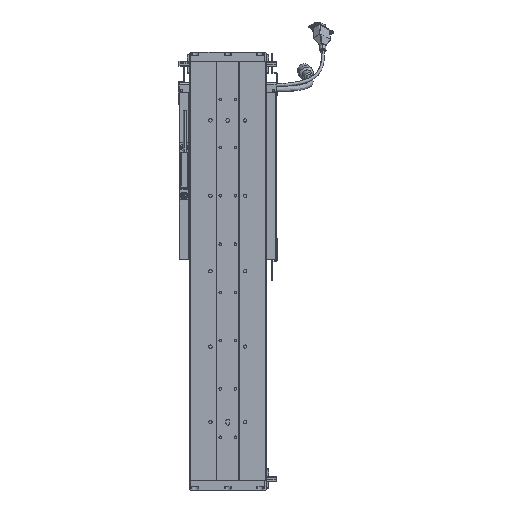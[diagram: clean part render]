
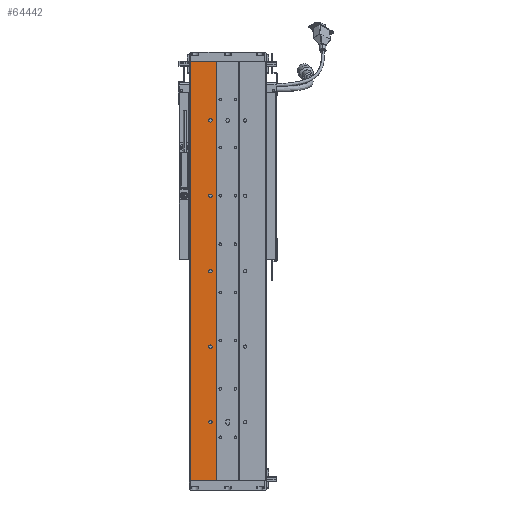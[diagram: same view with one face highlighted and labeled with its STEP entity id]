
A CAD part, front view. The second image highlights one B-rep face of the part: STEP entity #64442.
In plain terms, the highlighted planar face has unit normal (0, -1, 0).
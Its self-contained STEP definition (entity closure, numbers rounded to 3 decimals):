
#1338 = CARTESIAN_POINT ( 'NONE',  ( -23., 0.5, 75.75 ) ) ;
#1459 = LINE ( 'NONE', #40068, #13960 ) ;
#1689 = DIRECTION ( 'NONE',  ( 0., 0., 1. ) ) ;
#2395 = DIRECTION ( 'NONE',  ( 0., 0., 1. ) ) ;
#3947 = FACE_BOUND ( 'NONE', #38756, .T. ) ;
#4339 = DIRECTION ( 'NONE',  ( 0., 0., -1. ) ) ;
#4649 = DIRECTION ( 'NONE',  ( 0., 1., 0. ) ) ;
#5497 = FACE_BOUND ( 'NONE', #60318, .T. ) ;
#6554 = ORIENTED_EDGE ( 'NONE', *, *, #53734, .T. ) ;
#6708 = EDGE_CURVE ( 'NONE', #47941, #8627, #46156, .T. ) ;
#7122 = ORIENTED_EDGE ( 'NONE', *, *, #6708, .T. ) ;
#7694 = ORIENTED_EDGE ( 'NONE', *, *, #26185, .T. ) ;
#7799 = LINE ( 'NONE', #41799, #18795 ) ;
#7926 = DIRECTION ( 'NONE',  ( 0., 0., 1. ) ) ;
#8088 = PLANE ( 'NONE',  #57979 ) ;
#8270 = CARTESIAN_POINT ( 'NONE',  ( -23., 0.5, 180.25 ) ) ;
#8627 = VERTEX_POINT ( 'NONE', #27075 ) ;
#8951 = DIRECTION ( 'NONE',  ( 0., 0., 1. ) ) ;
#9043 = ORIENTED_EDGE ( 'NONE', *, *, #23541, .T. ) ;
#10131 = CIRCLE ( 'NONE', #38775, 2.25 ) ;
#10829 = CARTESIAN_POINT ( 'NONE',  ( -23., 0.5, 375.75 ) ) ;
#10961 = CARTESIAN_POINT ( 'NONE',  ( -23., 0.5, 480.25 ) ) ;
#11306 = DIRECTION ( 'NONE',  ( 0., 0., 1. ) ) ;
#11387 = CARTESIAN_POINT ( 'NONE',  ( -64.681, 0.5, 556. ) ) ;
#11577 = ORIENTED_EDGE ( 'NONE', *, *, #18320, .T. ) ;
#13960 = VECTOR ( 'NONE', #40506, 1000. ) ;
#14463 = CARTESIAN_POINT ( 'NONE',  ( -15., 0.5, 0. ) ) ;
#15485 = DIRECTION ( 'NONE',  ( 0., 0., 1. ) ) ;
#15849 = ORIENTED_EDGE ( 'NONE', *, *, #41222, .T. ) ;
#16336 = VERTEX_POINT ( 'NONE', #57232 ) ;
#16541 = AXIS2_PLACEMENT_3D ( 'NONE', #29397, #19423, #58588 ) ;
#16865 = CIRCLE ( 'NONE', #29645, 2.25 ) ;
#16942 = DIRECTION ( 'NONE',  ( 0., 1., 0. ) ) ;
#17112 = VERTEX_POINT ( 'NONE', #14463 ) ;
#17837 = EDGE_LOOP ( 'NONE', ( #6554, #49871 ) ) ;
#17967 = CARTESIAN_POINT ( 'NONE',  ( -23., 0.5, 278. ) ) ;
#17980 = FACE_BOUND ( 'NONE', #37761, .T. ) ;
#18095 = DIRECTION ( 'NONE',  ( 0., 1., 0. ) ) ;
#18214 = LINE ( 'NONE', #11387, #54699 ) ;
#18320 = EDGE_CURVE ( 'NONE', #18825, #18814, #55578, .T. ) ;
#18376 = DIRECTION ( 'NONE',  ( 0., 1., 0. ) ) ;
#18515 = DIRECTION ( 'NONE',  ( 0., 0., 1. ) ) ;
#18795 = VECTOR ( 'NONE', #2395, 1000. ) ;
#18814 = VERTEX_POINT ( 'NONE', #56430 ) ;
#18825 = VERTEX_POINT ( 'NONE', #36372 ) ;
#18860 = DIRECTION ( 'NONE',  ( 0., 0., 1. ) ) ;
#19423 = DIRECTION ( 'NONE',  ( 0., 1., 0. ) ) ;
#19915 = CIRCLE ( 'NONE', #63567, 2.25 ) ;
#21146 = ORIENTED_EDGE ( 'NONE', *, *, #24785, .T. ) ;
#21371 = CIRCLE ( 'NONE', #25383, 2.25 ) ;
#21519 = CARTESIAN_POINT ( 'NONE',  ( -23., 0.5, 178. ) ) ;
#22070 = VERTEX_POINT ( 'NONE', #54908 ) ;
#22682 = CIRCLE ( 'NONE', #16541, 2.25 ) ;
#23541 = EDGE_CURVE ( 'NONE', #33527, #29337, #16865, .T. ) ;
#24030 = CARTESIAN_POINT ( 'NONE',  ( -15., 0.5, 556. ) ) ;
#24784 = DIRECTION ( 'NONE',  ( 0., 0., 1. ) ) ;
#24785 = EDGE_CURVE ( 'NONE', #60904, #61640, #29897, .T. ) ;
#25383 = AXIS2_PLACEMENT_3D ( 'NONE', #57876, #18095, #18515 ) ;
#25649 = EDGE_LOOP ( 'NONE', ( #7694, #21146, #35462, #46733 ) ) ;
#26185 = EDGE_CURVE ( 'NONE', #50522, #60904, #18214, .T. ) ;
#27075 = CARTESIAN_POINT ( 'NONE',  ( -23., 0.5, 80.25 ) ) ;
#27602 = EDGE_CURVE ( 'NONE', #16336, #44598, #22682, .T. ) ;
#29337 = VERTEX_POINT ( 'NONE', #36375 ) ;
#29397 = CARTESIAN_POINT ( 'NONE',  ( -23., 0.5, 478. ) ) ;
#29645 = AXIS2_PLACEMENT_3D ( 'NONE', #52558, #62605, #7926 ) ;
#29897 = LINE ( 'NONE', #34129, #56382 ) ;
#29947 = AXIS2_PLACEMENT_3D ( 'NONE', #36914, #61352, #1689 ) ;
#30427 = FACE_BOUND ( 'NONE', #52836, .T. ) ;
#30463 = CARTESIAN_POINT ( 'NONE',  ( -23., 0.5, 178. ) ) ;
#31133 = CARTESIAN_POINT ( 'NONE',  ( -50., 0.5, 0. ) ) ;
#31877 = DIRECTION ( 'NONE',  ( 0., 0., 1. ) ) ;
#33527 = VERTEX_POINT ( 'NONE', #10829 ) ;
#33871 = EDGE_CURVE ( 'NONE', #8627, #47941, #10131, .T. ) ;
#34129 = CARTESIAN_POINT ( 'NONE',  ( -50., 0.5, 0. ) ) ;
#34660 = CARTESIAN_POINT ( 'NONE',  ( -23., 0.5, 78. ) ) ;
#34752 = ORIENTED_EDGE ( 'NONE', *, *, #33871, .T. ) ;
#35462 = ORIENTED_EDGE ( 'NONE', *, *, #50695, .F. ) ;
#36372 = CARTESIAN_POINT ( 'NONE',  ( -23., 0.5, 280.25 ) ) ;
#36375 = CARTESIAN_POINT ( 'NONE',  ( -23., 0.5, 380.25 ) ) ;
#36914 = CARTESIAN_POINT ( 'NONE',  ( -23., 0.5, 478. ) ) ;
#37059 = DIRECTION ( 'NONE',  ( 0., 0., 1. ) ) ;
#37505 = DIRECTION ( 'NONE',  ( 0., 1., 0. ) ) ;
#37761 = EDGE_LOOP ( 'NONE', ( #34752, #7122 ) ) ;
#38756 = EDGE_LOOP ( 'NONE', ( #11577, #38818 ) ) ;
#38775 = AXIS2_PLACEMENT_3D ( 'NONE', #34660, #4649, #18860 ) ;
#38818 = ORIENTED_EDGE ( 'NONE', *, *, #39605, .T. ) ;
#39605 = EDGE_CURVE ( 'NONE', #18814, #18825, #40192, .T. ) ;
#39684 = EDGE_CURVE ( 'NONE', #44598, #16336, #54278, .T. ) ;
#40068 = CARTESIAN_POINT ( 'NONE',  ( -64.681, 0.5, 0. ) ) ;
#40192 = CIRCLE ( 'NONE', #45787, 2.25 ) ;
#40506 = DIRECTION ( 'NONE',  ( -1., 0., 0. ) ) ;
#40982 = AXIS2_PLACEMENT_3D ( 'NONE', #21519, #55900, #11306 ) ;
#41222 = EDGE_CURVE ( 'NONE', #29337, #33527, #21371, .T. ) ;
#41799 = CARTESIAN_POINT ( 'NONE',  ( -15., 0.5, 0. ) ) ;
#42848 = FACE_BOUND ( 'NONE', #17837, .T. ) ;
#44598 = VERTEX_POINT ( 'NONE', #10961 ) ;
#44893 = ORIENTED_EDGE ( 'NONE', *, *, #39684, .T. ) ;
#44965 = VERTEX_POINT ( 'NONE', #8270 ) ;
#45269 = EDGE_CURVE ( 'NONE', #22070, #44965, #62260, .T. ) ;
#45787 = AXIS2_PLACEMENT_3D ( 'NONE', #54586, #64217, #24784 ) ;
#46156 = CIRCLE ( 'NONE', #53509, 2.25 ) ;
#46733 = ORIENTED_EDGE ( 'NONE', *, *, #49550, .T. ) ;
#47941 = VERTEX_POINT ( 'NONE', #1338 ) ;
#49550 = EDGE_CURVE ( 'NONE', #17112, #50522, #7799, .T. ) ;
#49871 = ORIENTED_EDGE ( 'NONE', *, *, #45269, .T. ) ;
#50522 = VERTEX_POINT ( 'NONE', #24030 ) ;
#50695 = EDGE_CURVE ( 'NONE', #17112, #61640, #1459, .T. ) ;
#51291 = CARTESIAN_POINT ( 'NONE',  ( -23., 0.5, 78. ) ) ;
#52558 = CARTESIAN_POINT ( 'NONE',  ( -23., 0.5, 378. ) ) ;
#52836 = EDGE_LOOP ( 'NONE', ( #15849, #9043 ) ) ;
#53509 = AXIS2_PLACEMENT_3D ( 'NONE', #51291, #16942, #31877 ) ;
#53734 = EDGE_CURVE ( 'NONE', #44965, #22070, #19915, .T. ) ;
#54278 = CIRCLE ( 'NONE', #29947, 2.25 ) ;
#54470 = AXIS2_PLACEMENT_3D ( 'NONE', #17967, #37505, #37059 ) ;
#54586 = CARTESIAN_POINT ( 'NONE',  ( -23., 0.5, 278. ) ) ;
#54699 = VECTOR ( 'NONE', #55976, 1000. ) ;
#54908 = CARTESIAN_POINT ( 'NONE',  ( -23., 0.5, 175.75 ) ) ;
#55343 = FACE_OUTER_BOUND ( 'NONE', #25649, .T. ) ;
#55578 = CIRCLE ( 'NONE', #54470, 2.25 ) ;
#55900 = DIRECTION ( 'NONE',  ( 0., 1., 0. ) ) ;
#55976 = DIRECTION ( 'NONE',  ( -1., 0., 0. ) ) ;
#56240 = CARTESIAN_POINT ( 'NONE',  ( -50., 0.5, 556. ) ) ;
#56343 = ORIENTED_EDGE ( 'NONE', *, *, #27602, .T. ) ;
#56382 = VECTOR ( 'NONE', #4339, 1000. ) ;
#56430 = CARTESIAN_POINT ( 'NONE',  ( -23., 0.5, 275.75 ) ) ;
#57232 = CARTESIAN_POINT ( 'NONE',  ( -23., 0.5, 475.75 ) ) ;
#57876 = CARTESIAN_POINT ( 'NONE',  ( -23., 0.5, 378. ) ) ;
#57979 = AXIS2_PLACEMENT_3D ( 'NONE', #58159, #18376, #8951 ) ;
#58159 = CARTESIAN_POINT ( 'NONE',  ( -64.681, 0.5, 0. ) ) ;
#58588 = DIRECTION ( 'NONE',  ( 0., 0., 1. ) ) ;
#60315 = DIRECTION ( 'NONE',  ( 0., 1., 0. ) ) ;
#60318 = EDGE_LOOP ( 'NONE', ( #44893, #56343 ) ) ;
#60904 = VERTEX_POINT ( 'NONE', #56240 ) ;
#61352 = DIRECTION ( 'NONE',  ( 0., 1., 0. ) ) ;
#61640 = VERTEX_POINT ( 'NONE', #31133 ) ;
#62260 = CIRCLE ( 'NONE', #40982, 2.25 ) ;
#62605 = DIRECTION ( 'NONE',  ( 0., 1., 0. ) ) ;
#63567 = AXIS2_PLACEMENT_3D ( 'NONE', #30463, #60315, #15485 ) ;
#64217 = DIRECTION ( 'NONE',  ( 0., 1., 0. ) ) ;
#64442 = ADVANCED_FACE ( 'NONE', ( #17980, #42848, #5497, #30427, #3947, #55343 ), #8088, .F. ) ;
